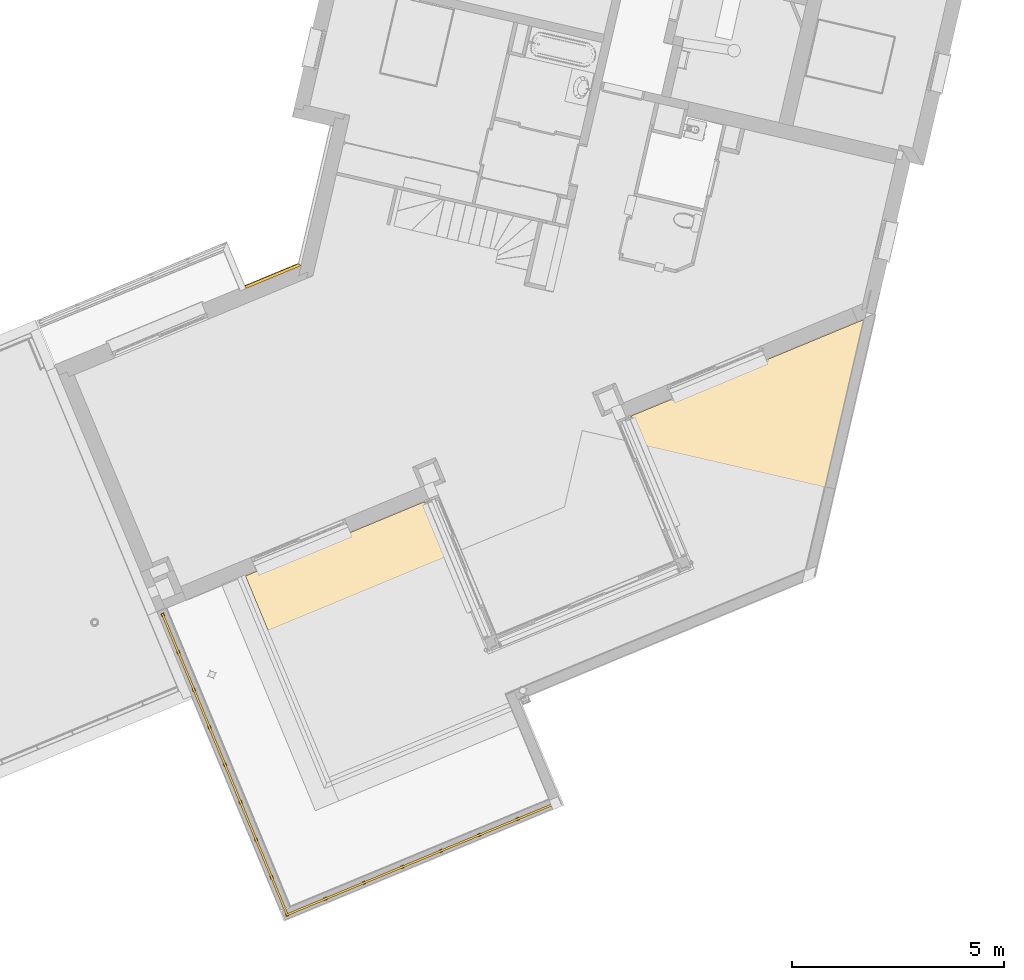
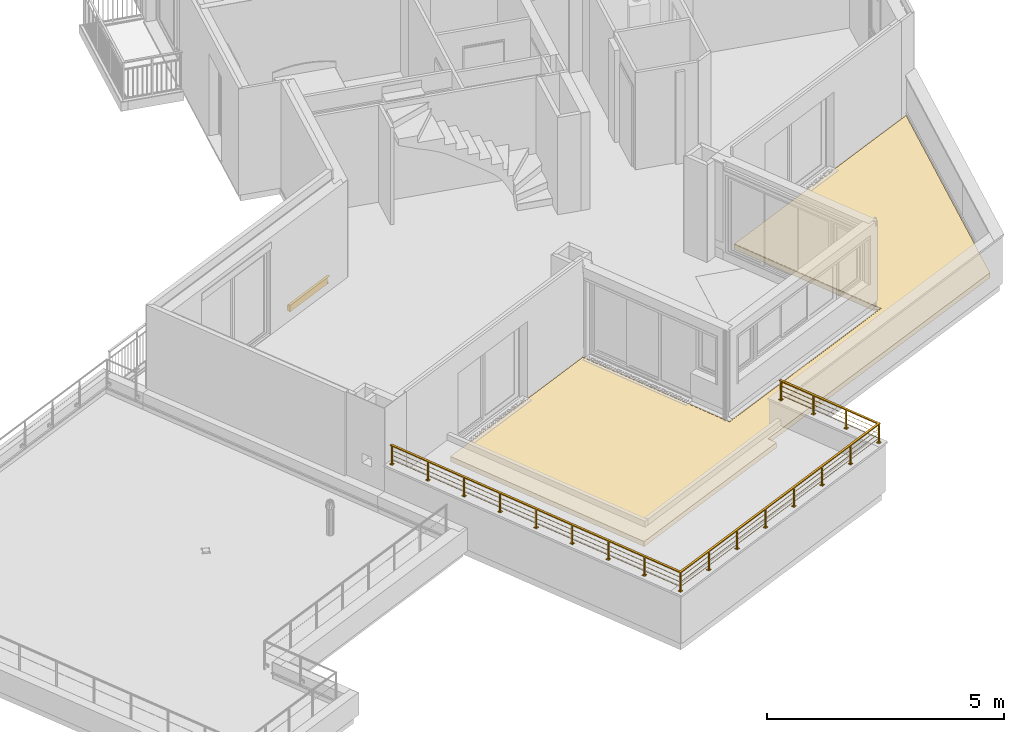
# One storey, part 39 of 62: 2 coverings, 1 railing.
"""IFC2X3 building model written with IfcOpenShell, lengths in metres."""

import ifcopenshell
import ifcopenshell.guid

model = None  # the IFC model being written
_history = None  # IfcOwnerHistory: only IFC2X3 demands one
_inside = {}  # id of a spatial element -> (the spatial element, [elements in it])
_under = {}  # id of a project, library or spatial element -> (it, [spatial elements below it])
_declared = {}  # id of a project -> (the project, [libraries it declares])
_typed = {}  # id of a type object -> (the type object, [elements of that type])
_made_of = {}  # id of a material, layer set ... -> (it, [elements and type objects made of it])


def new_model(schema):
    """Start an empty IFC model of exactly this schema.

    Asked for "IFC4X3", IfcOpenShell would pick the latest addendum, in which some entities
    have other attributes; the version numbers below select the first issue.
    IFC2X3 requires an IfcOwnerHistory on every rooted entity: one is made here for all.
    """
    global model, _history
    if schema == "IFC4X3":
        model = ifcopenshell.file(schema_version=(4, 3, 0, 0))
    else:
        model = ifcopenshell.file(schema=schema)
    _inside.clear()
    _under.clear()
    _declared.clear()
    _typed.clear()
    _made_of.clear()
    _history = None
    if model.schema == "IFC2X3":
        org = make("IfcOrganization", Name="unknown")
        user = make(
            "IfcPersonAndOrganization",
            ThePerson=make("IfcPerson", FamilyName="unknown"),
            TheOrganization=org,
        )
        app = make(
            "IfcApplication",
            ApplicationDeveloper=org,
            Version="unknown",
            ApplicationFullName="unknown",
            ApplicationIdentifier="unknown",
        )
        _history = make(
            "IfcOwnerHistory",
            OwningUser=user,
            OwningApplication=app,
            ChangeAction="ADDED",
            CreationDate=0,
        )
    return model


def make(cls, **values):
    """One entity of the class cls with the attributes given. An attribute that is None is left unset."""
    return model.create_entity(
        cls, **{name: value for name, value in values.items() if value is not None}
    )


def entity(cls, *values):
    """Any entity or typed value of the class cls, its attributes in the order of the schema. None: left unset."""
    e = model.create_entity(cls)
    for i, value in enumerate(values):
        if value is not None:
            e[i] = value
    return e


def rooted(cls, **values):
    """An entity with a GlobalId (a new one), such as an element, a storey or a relation."""
    return make(cls, GlobalId=ifcopenshell.guid.new(), OwnerHistory=_history, **values)


def si_unit(unit_type, name, prefix=None):
    """IfcSIUnit, for example si_unit("LENGTHUNIT", "METRE", prefix="MILLI")."""
    return make("IfcSIUnit", UnitType=unit_type, Prefix=prefix, Name=name)


def converted_unit(unit_type, name, factor, base, dimensions=None, offset=None):
    """IfcConversionBasedUnit, such as the inch: factor (a typed value) times the base unit."""
    return make(
        "IfcConversionBasedUnit"
        if offset is None
        else "IfcConversionBasedUnitWithOffset",
        ConversionOffset=offset,
        Dimensions=None
        if dimensions is None
        else entity("IfcDimensionalExponents", *dimensions),
        UnitType=unit_type,
        Name=name,
        ConversionFactor=make(
            "IfcMeasureWithUnit", ValueComponent=factor, UnitComponent=base
        ),
    )


def derived_unit(unit_type, elements):
    """IfcDerivedUnit: a product of units, each with its exponent."""
    return make(
        "IfcDerivedUnit",
        Elements=[
            make("IfcDerivedUnitElement", Unit=unit, Exponent=power)
            for unit, power in elements
        ],
        UnitType=unit_type,
    )


def money_unit(currency):
    """IfcMonetaryUnit."""
    return make("IfcMonetaryUnit", Currency=currency)


def assignment(units):
    """IfcUnitAssignment: the units of a project."""
    return None if units is None else make("IfcUnitAssignment", Units=units)


def point(xyz):
    """IfcCartesianPoint."""
    return None if xyz is None else make("IfcCartesianPoint", Coordinates=xyz)


def direction(xyz):
    """IfcDirection."""
    return None if xyz is None else make("IfcDirection", DirectionRatios=xyz)


def frame(location, z_axis=None, x_axis=None):
    """IfcAxis2Placement3D, a coordinate frame: its origin and axes. An axis left out is left unset."""
    return make(
        "IfcAxis2Placement3D",
        Location=point(location),
        Axis=direction(z_axis),
        RefDirection=direction(x_axis),
    )


def origin_with_axes():
    """The frame at (0, 0, 0) with the z axis (0, 0, 1) and the x axis (1, 0, 0) written out."""
    return frame((0.0, 0.0, 0.0), z_axis=(0.0, 0.0, 1.0), x_axis=(1.0, 0.0, 0.0))


def place(relative_to, where):
    """IfcLocalPlacement: puts the frame where relative to a parent placement (None: the world)."""
    return make(
        "IfcLocalPlacement", PlacementRelTo=relative_to, RelativePlacement=where
    )


def context(
    kind, dimensions, precision=None, world=None, true_north=None, identifier=None
):
    """IfcGeometricRepresentationContext, for example the 3D "Model" context."""
    return make(
        "IfcGeometricRepresentationContext",
        ContextIdentifier=identifier,
        ContextType=kind,
        CoordinateSpaceDimension=dimensions,
        Precision=precision,
        WorldCoordinateSystem=world,
        TrueNorth=true_north,
    )


def subcontext(parent, identifier, kind, view, scale=None):
    """IfcGeometricRepresentationSubContext, for example "Body" below "Model"."""
    return make(
        "IfcGeometricRepresentationSubContext",
        ContextIdentifier=identifier,
        ContextType=kind,
        ParentContext=parent,
        TargetScale=scale,
        TargetView=view,
    )


def project(units=None, contexts=None):
    """IfcProject with its units and contexts."""
    return rooted(
        "IfcProject",
        Name="project",
        RepresentationContexts=contexts,
        UnitsInContext=assignment(units),
    )


def spatial(cls, under=None, at=None, **own):
    """A site, building, storey or space (cls), placed at a placement, below another one or the project."""
    s = rooted(cls, ObjectPlacement=at, **own)
    if under is not None:
        _under.setdefault(under.id(), (under, []))[1].append(s)
    return s


def faces_of(points, faces, orient=None, outer=None):
    """IfcFace entities. A face is a list of loops; a loop is a list of indices into points, from 0.

    orient and outer hold one flag for each loop. By default every Orientation is true, the
    first loop of a face is its IfcFaceOuterBound and the others are IfcFaceBound.
    """
    made = []
    for i, loops in enumerate(faces):
        bounds = []
        for j, loop in enumerate(loops):
            is_outer = j == 0 if outer is None else outer[i][j]
            bounds.append(
                make(
                    "IfcFaceOuterBound" if is_outer else "IfcFaceBound",
                    Bound=make("IfcPolyLoop", Polygon=[points[k] for k in loop]),
                    Orientation=True if orient is None else orient[i][j],
                )
            )
        made.append(make("IfcFace", Bounds=bounds))
    return made


def faceted_brep(points, faces, orient=None, outer=None, voids=None):
    """IfcFacetedBrep: a solid bounded by flat faces; with voids (closed shells), ...WithVoids."""
    shared = [point(p) for p in points]
    hull = make("IfcClosedShell", CfsFaces=faces_of(shared, faces, orient, outer))
    if voids is None:
        return make("IfcFacetedBrep", Outer=hull)
    return make(
        "IfcFacetedBrepWithVoids",
        Outer=hull,
        Voids=[
            make(cls, CfsFaces=faces_of(shared, fs, o, b)) for cls, fs, o, b in voids
        ],
    )


def shape(context_of_items, identifier, shape_type, items):
    """IfcShapeRepresentation: the items that make up one representation, for example the "Body"."""
    return make(
        "IfcShapeRepresentation",
        ContextOfItems=context_of_items,
        RepresentationIdentifier=identifier,
        RepresentationType=shape_type,
        Items=items,
    )


def material(Name=None, Category=None):
    """IfcMaterial."""
    return make("IfcMaterial", Name=Name, Category=Category)


def material_list(materials):
    """IfcMaterialList."""
    return make("IfcMaterialList", Materials=materials)


def made_of(thing, what):
    """Note that an element or type object is made of a material, layer set ...; save() writes the relation."""
    if what is not None:
        _made_of.setdefault(what.id(), (what, []))[1].append(thing)
    return thing


def type_object(cls, material=None, **own):
    """A type object (cls), such as IfcWallType, which elements share."""
    return made_of(rooted(cls, **own), material)


def element(
    cls,
    number,
    at=None,
    inside=None,
    cuts=None,
    type_object=None,
    material=None,
    context=None,
    identifier="Body",
    shape_type=None,
    held_by="IfcProductDefinitionShape",
    body=None,
    shapes=None,
    **own,
):
    """One element of the class cls, such as IfcWall. Its Tag is "e" and its number.

    at: its placement. inside: the storey or other place that contains it. cuts: it is an
    opening in that element (IfcRelVoidsElement). A single representation is given by context,
    identifier, shape_type and body (its items); several are given by shapes. held_by: the class
    of the entity that holds the representations. save() writes the other relations.
    """
    e = rooted(cls, Tag="e%d" % number, ObjectPlacement=at, **own)
    if body is not None:
        shapes = [shape(context, identifier, shape_type, body)]
    if shapes is not None:
        e.Representation = make(held_by, Representations=shapes)
    if inside is not None:
        _inside.setdefault(inside.id(), (inside, []))[1].append(e)
    if cuts is not None:
        rooted(
            "IfcRelVoidsElement", RelatingBuildingElement=cuts, RelatedOpeningElement=e
        )
    if type_object is not None:
        _typed.setdefault(type_object.id(), (type_object, []))[1].append(e)
    return made_of(e, material)


def aggregate(whole, parts):
    """IfcRelAggregates: a whole, such as a stair, and the parts it consists of."""
    return rooted("IfcRelAggregates", RelatingObject=whole, RelatedObjects=parts)


def save(model, path):
    """Write the relations noted so far, then the file.

    IfcRelAggregates (storeys below a building ...), IfcRelContainedInSpatialStructure (elements
    in a storey), IfcRelDefinesByType, IfcRelAssociatesMaterial and IfcRelDeclares: one each for
    every whole, place, type object, material and project.
    """
    for whole, parts in _under.values():
        aggregate(whole, parts)
    for where, things in _inside.values():
        rooted(
            "IfcRelContainedInSpatialStructure",
            RelatedElements=things,
            RelatingStructure=where,
        )
    for kind, things in _typed.values():
        rooted("IfcRelDefinesByType", RelatedObjects=things, RelatingType=kind)
    for what, things in _made_of.values():
        rooted("IfcRelAssociatesMaterial", RelatedObjects=things, RelatingMaterial=what)
    for by, libraries in _declared.values():
        rooted("IfcRelDeclares", RelatingContext=by, RelatedDefinitions=libraries)
    model.write(path)


model = new_model("IFC2X3")

# Units and contexts
model_context = context("Model", 3, precision=1e-05, world=origin_with_axes(), true_north=direction((0.0, 1.0)))
body_context = subcontext(model_context, "Body", "Model", "MODEL_VIEW")
ifc_project = project(units=[si_unit("LENGTHUNIT", "METRE"), si_unit("AREAUNIT", "SQUARE_METRE"), si_unit("VOLUMEUNIT", "CUBIC_METRE"), converted_unit("PLANEANGLEUNIT", "DEGREE", entity("IfcPlaneAngleMeasure", 0.0174532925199), si_unit("PLANEANGLEUNIT", "RADIAN"), dimensions=[0, 0, 0, 0, 0, 0, 0]), si_unit("SOLIDANGLEUNIT", "STERADIAN"), money_unit("EUR"), converted_unit("TIMEUNIT", "Year", entity("IfcTimeMeasure", 31556926.0), si_unit("TIMEUNIT", "SECOND"), dimensions=[0, 0, 1, 0, 0, 0, 0]), si_unit("MASSUNIT", "GRAM", prefix="KILO"), si_unit("THERMODYNAMICTEMPERATUREUNIT", "DEGREE_CELSIUS"), si_unit("LUMINOUSINTENSITYUNIT", "LUMEN"), si_unit("ENERGYUNIT", "JOULE", prefix="MEGA"), derived_unit("THERMALCONDUCTANCEUNIT", [(si_unit("POWERUNIT", "WATT"), 1), (si_unit("LENGTHUNIT", "METRE"), -1), (si_unit("THERMODYNAMICTEMPERATUREUNIT", "KELVIN"), -1)]), derived_unit("SPECIFICHEATCAPACITYUNIT", [(si_unit("ENERGYUNIT", "JOULE"), 1), (si_unit("MASSUNIT", "GRAM", prefix="KILO"), -1), (si_unit("THERMODYNAMICTEMPERATUREUNIT", "KELVIN"), -1)]), derived_unit("MASSDENSITYUNIT", [(si_unit("MASSUNIT", "GRAM", prefix="KILO"), 1), (si_unit("VOLUMEUNIT", "CUBIC_METRE"), -1)])], contexts=[model_context])

# Site, building, storey
site_placement = place(None, origin_with_axes())
site = spatial("IfcSite", under=ifc_project, at=site_placement, Name="Site", CompositionType="ELEMENT")
building_placement = place(site_placement, origin_with_axes())
building = spatial("IfcBuilding", under=site, at=building_placement, Name="Bâtiment", CompositionType="ELEMENT")
storey_placement = place(building_placement, frame((0.0, 0.0, 8.16), z_axis=(0.0, 0.0, 1.0), x_axis=(1.0, 0.0, 0.0)))
storey = spatial("IfcBuildingStorey", under=building, at=storey_placement, Name="R+3", CompositionType="ELEMENT", Elevation=8.16)

# Coverings
ifc_material_1 = material(Name="Finition sol - Carrelage")
covering_type_1 = type_object("IfcCoveringType", Name="Bandeau de façade composite 80 x 165", PredefinedType="USERDEFINED")
covering_1_placement = place(storey_placement, frame((-19.8338770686, -12.7109182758, -0.165), z_axis=(0.0, 0.0, 1.0), x_axis=(-0.92370167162, -0.383112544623, 0.0)))
element("IfcCovering", 1, at=covering_1_placement, inside=storey, type_object=covering_type_1, material=ifc_material_1, Name="Bandeaux de façade préfa composite", ObjectType="MOLDING", PredefinedType="USERDEFINED", context=body_context, shape_type="Brep", body=[
    faceted_brep([(0.0571102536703, 0.08, 0.00621912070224), (0.0184603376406, 0.0258592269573, 0.00621912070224), (0.0126732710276, 0.0177527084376, 0.00621912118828), (0.0, 0.0, 0.00621912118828), (0.0, 0.0, 0.144794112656), (0.0571102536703, 0.08, 0.144794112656), (0.0352980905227, 0.08, 0.00621912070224), (-0.00335182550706, 0.0258592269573, 0.00621912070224), (1.36038424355, 0.0258592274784, 0.00621912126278), (1.36038424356, 0.0177527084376, 0.00621912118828), (0.0089612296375, 0.0125528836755, 0.0), (0.0, 0.0, 0.0), (1.36038424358, 0.0, 0.144794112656), (1.36038424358, 0.0, 0.0), (1.36038424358, 0.0, 0.00621912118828), (0.0395581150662, 0.08, 0.16), (-0.00735402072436, 0.0142855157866, 0.16), (1.3603842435, 0.08, 0.00621912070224), (1.3603842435, 0.08, 0.0), (0.0189490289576, 0.08, 0.0), (0.0253378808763, 0.08, 0.00621912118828), (-0.0411830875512, 0.0800000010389, 0.165), (1.3603842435, 0.08, 0.165), (-0.013312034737, 0.0258592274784, 0.00621912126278), (-0.0159888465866, 0.0310590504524, 0.0), (1.36038424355, 0.0310590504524, 0.0), (1.36038424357, 0.0142855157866, 0.16), (1.36038424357, 0.0125528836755, 0.0)], [[[0, 1, 2, 3, 4, 5]], [[0, 6, 7, 1]], [[8, 9, 2, 1]], [[2, 10, 11, 3]], [[12, 4, 3, 11, 13, 14]], [[15, 5, 4, 16]], [[17, 18, 19, 20, 6, 0, 5, 15, 21, 22]], [[7, 6, 20, 23]], [[1, 7, 23, 24, 25, 8]], [[26, 12, 14, 9, 8, 17, 22]], [[9, 27, 10, 2]], [[27, 13, 11, 10]], [[12, 26, 16, 4]], [[14, 13, 27, 9]], [[21, 15, 16]], [[8, 25, 18, 17]], [[18, 25, 24, 19]], [[23, 20, 19, 24]], [[26, 22, 21, 16]]]),
])
ifc_material_2 = material(Name="Finition sol - Dalles terrasse")
ifc_material_3 = material(Name="Divers - Vide")
ifc_material_list_1 = material_list([ifc_material_2, ifc_material_3])
covering_type_2 = type_object("IfcCoveringType", Name="6 -Dalles sur plots multi protections 130", PredefinedType="INSULATION")
covering_2_placement = place(storey_placement, frame((-21.0779884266, -20.1027118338, 0.24), z_axis=(0.0, 0.0, 1.0), x_axis=(1.0, 0.0, 0.0)))
element("IfcCovering", 2, at=covering_2_placement, inside=storey, type_object=covering_type_2, material=ifc_material_list_1, Name="Dalle_004", PredefinedType="INSULATION", context=body_context, shape_type="Brep", body=[
    faceted_brep([(5.74169231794, -1.84581853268, -0.02), (5.73707380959, -1.8477340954, -0.02), (5.73707380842, -1.84773409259, -5.19607823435e-09), (5.74169231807, -1.84581852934, -5.19607823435e-09), (10.5966683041, 0.167821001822, -5.19608001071e-09), (10.6012868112, 0.16973656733, -5.19608001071e-09), (10.6012868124, 0.169736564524, -0.02), (10.596668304, 0.167821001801, -0.02), (5.73977675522, -1.84120002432, -0.0199999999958), (4.24575275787, 1.76095940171, -0.0199999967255), (4.24113424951, 1.75904383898, -0.0199999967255), (9.10534725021, 3.7765145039, -0.0199999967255), (9.10072874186, 3.77459894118, -0.0199999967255), (10.5947527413, 0.172439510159, -0.02), (4.24113424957, 1.75904383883, -1.25848487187e-09), (4.24113424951, 1.75904383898, -0.0170687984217), (0.0, 0.0, 0.0), (1.97559646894, -4.76325243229, 0.0), (6.2229124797, -3.00164465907, 0.0), (6.13467302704, -2.79196763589, 0.0), (13.2443196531, 0.15681430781, 0.0), (14.6062515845, 6.05805791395, 0.0), (9.10534724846, 3.77651450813, -1.25848487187e-09), (9.10534725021, 3.7765145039, -0.0170687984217), (5.73977675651, -1.84120002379, -5.19103515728e-09), (4.24575275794, 1.76095940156, -1.25848487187e-09), (4.24575275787, 1.76095940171, -0.0170687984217), (4.25776087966, 1.76593986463, 0.0), (4.25776087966, 1.76593986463, -0.05), (0.0, 0.0, -0.05), (14.6062515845, 6.05805791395, -0.05), (9.08872061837, 3.76961848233, -0.05), (9.08872061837, 3.76961848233, 0.0), (9.10072874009, 3.7745989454, -1.25848487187e-09), (9.10072874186, 3.77459894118, -0.0170687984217), (10.5947527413, 0.172439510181, -5.19103871e-09), (1.97559646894, -4.76325243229, -0.05), (6.2229124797, -3.00164465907, -0.05), (6.13467302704, -2.79196763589, -0.05), (13.2443196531, 0.15681430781, -0.05), (10.5777641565, 0.17946716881, 0.0), (5.74680441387, -1.82421143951, 0.0), (5.74680441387, -1.82421143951, -0.05), (10.5777641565, 0.17946716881, -0.05)], [[[0, 1, 2, 3, 4, 5, 6, 7]], [[8, 9, 10, 1, 0, 7, 6, 11, 12, 13]], [[14, 2, 1, 10, 15]], [[2, 14, 16, 17, 18, 19, 20, 21, 22, 5, 4, 3]], [[5, 22, 23, 11, 6]], [[8, 24, 25, 26, 9]], [[26, 25, 27, 28, 29, 16, 14, 15, 10, 9]], [[23, 22, 21, 30, 31, 32, 33, 34, 12, 11]], [[35, 13, 12, 34, 33]], [[24, 8, 13, 35]], [[29, 36, 17, 16]], [[36, 37, 18, 17]], [[37, 38, 19, 18]], [[38, 39, 20, 19]], [[39, 30, 21, 20]], [[25, 24, 35, 33, 32, 40, 41, 27]], [[42, 28, 27, 41]], [[36, 29, 28, 42, 43, 31, 30, 39, 38, 37]], [[31, 43, 40, 32]], [[43, 42, 41, 40]]]),
    faceted_brep([(0.0, 0.0, -0.05), (0.0, 0.0, -0.13), (1.97559646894, -4.76325243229, -0.13), (1.97559646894, -4.76325243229, -0.05), (4.25776087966, 1.76593986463, -0.05), (4.25776087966, 1.76593986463, -0.13), (5.74680441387, -1.82421143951, -0.13), (10.5777641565, 0.17946716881, -0.13), (9.08872061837, 3.76961848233, -0.13), (14.6062515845, 6.05805791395, -0.13), (13.2443196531, 0.15681430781, -0.13), (6.13467302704, -2.79196763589, -0.13), (6.2229124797, -3.00164465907, -0.13), (6.2229124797, -3.00164465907, -0.05), (6.13467302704, -2.79196763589, -0.05), (13.2443196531, 0.15681430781, -0.05), (14.6062515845, 6.05805791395, -0.05), (9.08872061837, 3.76961848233, -0.05), (10.5777641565, 0.17946716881, -0.05), (5.74680441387, -1.82421143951, -0.05)], [[[0, 1, 2, 3]], [[4, 5, 1, 0]], [[2, 1, 5, 6, 7, 8, 9, 10, 11, 12]], [[3, 2, 12, 13]], [[4, 0, 3, 13, 14, 15, 16, 17, 18, 19]], [[19, 6, 5, 4]], [[18, 7, 6, 19]], [[17, 8, 7, 18]], [[16, 9, 8, 17]], [[15, 10, 9, 16]], [[14, 11, 10, 15]], [[13, 12, 11, 14]]]),
])

# Railing
ifc_material_4 = material(Name="Métal - Acier")
ifc_material_list_2 = material_list([ifc_material_4, ifc_material_4, ifc_material_4, ifc_material_4, ifc_material_4, ifc_material_4, ifc_material_4, ifc_material_4, ifc_material_4, ifc_material_4, ifc_material_4, ifc_material_4, ifc_material_4, ifc_material_4, ifc_material_4, ifc_material_4, ifc_material_4, ifc_material_4, ifc_material_4, ifc_material_4, ifc_material_4, ifc_material_4, ifc_material_4, ifc_material_4, ifc_material_4, ifc_material_4, ifc_material_4, ifc_material_4, ifc_material_4, ifc_material_4, ifc_material_4, ifc_material_4, ifc_material_4])
railing_type = type_object("IfcRailingType", Name="Type de garde-corps", PredefinedType="NOTDEFINED")
railing_placement = place(storey_placement, frame((-22.1556995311, -23.132359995, 1.28), z_axis=(0.0, 0.0, 1.0), x_axis=(1.0, 0.0, 0.0)))
element("IfcRailing", 3, at=railing_placement, inside=storey, type_object=railing_type, material=ifc_material_list_2, Name="Garde-corps acier laqué H=50cm", PredefinedType="NOTDEFINED", context=body_context, shape_type="Brep", body=[
    faceted_brep([(-0.895953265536, 2.12103085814, 0.01), (-0.8844598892, 2.09331980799, 0.01), (-0.8844598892, 2.09331980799, 0.48), (-0.895953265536, 2.12103085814, 0.48), (-0.856748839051, 2.10481318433, 0.01), (-0.868242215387, 2.13252423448, 0.01), (-0.856748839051, 2.10481318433, 0.48), (-0.868242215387, 2.13252423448, 0.48)], [[[0, 1, 2, 3]], [[4, 1, 0, 5]], [[1, 4, 6, 2]], [[3, 2, 6, 7]], [[5, 0, 3, 7]], [[4, 5, 7, 6]]]),
    faceted_brep([(-0.854727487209, 2.16519458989, 0.0), (-0.854727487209, 2.16519458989, 0.01), (-0.824078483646, 2.09129845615, 0.01), (-0.824078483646, 2.09129845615, 0.0), (-0.928623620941, 2.13454558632, 0.0), (-0.928623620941, 2.13454558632, 0.01), (-0.897974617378, 2.06064945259, 0.01), (-0.897974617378, 2.06064945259, 0.0)], [[[0, 1, 2, 3]], [[4, 5, 1, 0]], [[1, 5, 6, 2]], [[3, 2, 6, 7]], [[0, 3, 7, 4]], [[7, 6, 5, 4]]]),
    faceted_brep([(-0.853258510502, 2.12249983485, 0.5), (-0.853258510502, 2.12249983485, 0.475), (-0.864751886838, 2.150210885, 0.475), (-0.864751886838, 2.150210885, 0.5), (-0.899443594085, 2.10334420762, 0.5), (-0.899443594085, 2.10334420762, 0.475), (-0.910936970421, 2.13105525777, 0.475), (-0.910936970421, 2.13105525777, 0.5)], [[[0, 1, 2, 3]], [[0, 4, 5, 1]], [[1, 5, 6, 2]], [[3, 2, 6, 7]], [[4, 0, 3, 7]], [[5, 4, 7, 6]]]),
    faceted_brep([(2.04408388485, -4.96753167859, 0.01), (2.05557726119, -4.99524272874, 0.01), (2.05557726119, -4.99524272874, 0.48), (2.04408388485, -4.96753167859, 0.48), (2.08328831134, -4.9837493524, 0.01), (2.071794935, -4.95603830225, 0.01), (2.08328831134, -4.9837493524, 0.48), (2.071794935, -4.95603830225, 0.48)], [[[0, 1, 2, 3]], [[4, 1, 0, 5]], [[1, 4, 6, 2]], [[3, 2, 6, 7]], [[5, 0, 3, 7]], [[4, 5, 7, 6]]]),
    faceted_brep([(2.08530966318, -4.92336794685, 0.0), (2.08530966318, -4.92336794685, 0.01), (2.11595866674, -4.99726408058, 0.01), (2.11595866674, -4.99726408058, 0.0), (2.01141352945, -4.95401695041, 0.0), (2.01141352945, -4.95401695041, 0.01), (2.04206253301, -5.02791308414, 0.01), (2.04206253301, -5.02791308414, 0.0)], [[[0, 1, 2, 3]], [[4, 5, 1, 0]], [[1, 5, 6, 2]], [[3, 2, 6, 7]], [[0, 3, 7, 4]], [[7, 6, 5, 4]]]),
    faceted_brep([(8.41393442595, -2.35806400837, 0.01), (8.4416454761, -2.34657063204, 0.01), (8.4416454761, -2.34657063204, 0.48), (8.41393442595, -2.35806400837, 0.48), (8.43015209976, -2.31885958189, 0.01), (8.40244104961, -2.33035295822, 0.01), (8.43015209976, -2.31885958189, 0.48), (8.40244104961, -2.33035295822, 0.48)], [[[0, 1, 2, 3]], [[4, 1, 0, 5]], [[1, 4, 6, 2]], [[3, 2, 6, 7]], [[5, 0, 3, 7]], [[4, 5, 7, 6]]]),
    faceted_brep([(8.36977069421, -2.31683823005, 0.0), (8.36977069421, -2.31683823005, 0.01), (8.44366682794, -2.28618922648, 0.01), (8.44366682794, -2.28618922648, 0.0), (8.40041969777, -2.39073436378, 0.0), (8.40041969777, -2.39073436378, 0.01), (8.4743158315, -2.36008536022, 0.01), (8.4743158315, -2.36008536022, 0.0)], [[[0, 1, 2, 3]], [[4, 5, 1, 0]], [[1, 5, 6, 2]], [[3, 2, 6, 7]], [[0, 3, 7, 4]], [[7, 6, 5, 4]]]),
    faceted_brep([(7.4453467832, 0.0555505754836, 0.01), (7.43385340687, 0.0832616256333, 0.01), (7.43385340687, 0.0832616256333, 0.48), (7.4453467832, 0.0555505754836, 0.48), (7.40614235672, 0.0717682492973, 0.01), (7.41763573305, 0.0440571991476, 0.01), (7.40614235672, 0.0717682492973, 0.48), (7.41763573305, 0.0440571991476, 0.48)], [[[0, 1, 2, 3]], [[4, 1, 0, 5]], [[1, 4, 6, 2]], [[3, 2, 6, 7]], [[5, 0, 3, 7]], [[4, 5, 7, 6]]]),
    faceted_brep([(7.40412100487, 0.0113868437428, 0.0), (7.40412100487, 0.0113868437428, 0.01), (7.37347200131, 0.0852829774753, 0.01), (7.37347200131, 0.0852829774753, 0.0), (7.47801713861, 0.0420358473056, 0.0), (7.47801713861, 0.0420358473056, 0.01), (7.44736813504, 0.115931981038, 0.01), (7.44736813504, 0.115931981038, 0.0)], [[[0, 1, 2, 3]], [[4, 5, 1, 0]], [[1, 5, 6, 2]], [[3, 2, 6, 7]], [[0, 3, 7, 4]], [[7, 6, 5, 4]]]),
    faceted_brep([(7.44883711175, 0.0732372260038, 0.5), (7.44883711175, 0.0732372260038, 0.475), (7.43734373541, 0.100948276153, 0.475), (7.43734373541, 0.100948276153, 0.5), (7.40265202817, 0.0540815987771, 0.5), (7.40265202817, 0.0540815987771, 0.475), (7.39115865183, 0.0817926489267, 0.475), (7.39115865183, 0.0817926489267, 0.5)], [[[0, 1, 2, 3]], [[0, 4, 5, 1]], [[1, 5, 6, 2]], [[3, 2, 6, 7]], [[4, 0, 3, 7]], [[5, 4, 7, 6]]]),
    faceted_brep([(-0.899443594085, 2.10334420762, 0.5), (-0.899443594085, 2.10334420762, 0.475), (2.05017136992, -5.0083108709, 0.475), (2.05017136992, -5.0083108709, 0.5), (-0.853258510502, 2.12249983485, 0.5), (-0.853258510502, 2.12249983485, 0.475), (2.07720082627, -4.94297016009, 0.475), (2.07720082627, -4.94297016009, 0.5)], [[[0, 1, 2, 3]], [[0, 4, 5, 1]], [[1, 5, 6, 2]], [[3, 2, 6, 7]], [[4, 0, 3, 7]], [[5, 4, 7, 6]]]),
    faceted_brep([(-0.878660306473, 2.11196423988, 0.114127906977), (-0.878660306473, 2.11196423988, 0.109127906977), (2.06233462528, -4.97890755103, 0.109127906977), (2.06233462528, -4.97890755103, 0.114127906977), (-0.874041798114, 2.1138798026, 0.114127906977), (-0.874041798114, 2.1138798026, 0.109127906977), (2.06503757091, -4.97237347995, 0.109127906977), (2.06503757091, -4.97237347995, 0.114127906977)], [[[0, 1, 2, 3]], [[0, 4, 5, 1]], [[1, 5, 6, 2]], [[3, 2, 6, 7]], [[4, 0, 3, 7]], [[5, 4, 7, 6]]]),
    faceted_brep([(-0.878660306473, 2.11196423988, 0.234117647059), (-0.878660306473, 2.11196423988, 0.229117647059), (2.06233462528, -4.97890755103, 0.229117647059), (2.06233462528, -4.97890755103, 0.234117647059), (-0.874041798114, 2.1138798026, 0.234117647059), (-0.874041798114, 2.1138798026, 0.229117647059), (2.06503757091, -4.97237347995, 0.229117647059), (2.06503757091, -4.97237347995, 0.234117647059)], [[[0, 1, 2, 3]], [[0, 4, 5, 1]], [[1, 5, 6, 2]], [[3, 2, 6, 7]], [[4, 0, 3, 7]], [[5, 4, 7, 6]]]),
    faceted_brep([(-0.878660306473, 2.11196423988, 0.355441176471), (-0.878660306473, 2.11196423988, 0.350441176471), (2.06233462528, -4.97890755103, 0.350441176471), (2.06233462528, -4.97890755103, 0.355441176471), (-0.874041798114, 2.1138798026, 0.355441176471), (-0.874041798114, 2.1138798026, 0.350441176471), (2.06503757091, -4.97237347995, 0.350441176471), (2.06503757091, -4.97237347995, 0.355441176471)], [[[0, 1, 2, 3]], [[0, 4, 5, 1]], [[1, 5, 6, 2]], [[3, 2, 6, 7]], [[4, 0, 3, 7]], [[5, 4, 7, 6]]]),
    faceted_brep([(-0.528448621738, 1.23496054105, 0.01), (-0.516955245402, 1.2072494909, 0.01), (-0.516955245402, 1.2072494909, 0.48), (-0.528448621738, 1.23496054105, 0.48), (-0.489244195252, 1.21874286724, 0.01), (-0.500737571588, 1.24645391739, 0.01), (-0.489244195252, 1.21874286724, 0.48), (-0.500737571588, 1.24645391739, 0.48)], [[[0, 1, 2, 3]], [[4, 1, 0, 5]], [[1, 4, 6, 2]], [[3, 2, 6, 7]], [[5, 0, 3, 7]], [[4, 5, 7, 6]]]),
    faceted_brep([(-0.48722284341, 1.27912427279, 0.0), (-0.48722284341, 1.27912427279, 0.01), (-0.456573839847, 1.20522813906, 0.01), (-0.456573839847, 1.20522813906, 0.0), (-0.561118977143, 1.24847526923, 0.0), (-0.561118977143, 1.24847526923, 0.01), (-0.53046997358, 1.1745791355, 0.01), (-0.53046997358, 1.1745791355, 0.0)], [[[0, 1, 2, 3]], [[4, 5, 1, 0]], [[1, 5, 6, 2]], [[3, 2, 6, 7]], [[0, 3, 7, 4]], [[7, 6, 5, 4]]]),
    faceted_brep([(-0.160943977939, 0.348890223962, 0.01), (-0.149450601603, 0.321179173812, 0.01), (-0.149450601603, 0.321179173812, 0.48), (-0.160943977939, 0.348890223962, 0.48), (-0.121739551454, 0.332672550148, 0.01), (-0.13323292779, 0.360383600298, 0.01), (-0.121739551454, 0.332672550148, 0.48), (-0.13323292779, 0.360383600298, 0.48)], [[[0, 1, 2, 3]], [[4, 1, 0, 5]], [[1, 4, 6, 2]], [[3, 2, 6, 7]], [[5, 0, 3, 7]], [[4, 5, 7, 6]]]),
    faceted_brep([(-0.119718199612, 0.393053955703, 0.0), (-0.119718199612, 0.393053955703, 0.01), (-0.0890691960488, 0.31915782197, 0.01), (-0.0890691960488, 0.31915782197, 0.0), (-0.193614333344, 0.36240495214, 0.0), (-0.193614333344, 0.36240495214, 0.01), (-0.162965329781, 0.288508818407, 0.01), (-0.162965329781, 0.288508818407, 0.0)], [[[0, 1, 2, 3]], [[4, 5, 1, 0]], [[1, 5, 6, 2]], [[3, 2, 6, 7]], [[0, 3, 7, 4]], [[7, 6, 5, 4]]]),
    faceted_brep([(0.206560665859, -0.53718009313, 0.01), (0.218054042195, -0.564891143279, 0.01), (0.218054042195, -0.564891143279, 0.48), (0.206560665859, -0.53718009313, 0.48), (0.245765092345, -0.553397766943, 0.01), (0.234271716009, -0.525686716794, 0.01), (0.245765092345, -0.553397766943, 0.48), (0.234271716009, -0.525686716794, 0.48)], [[[0, 1, 2, 3]], [[4, 1, 0, 5]], [[1, 4, 6, 2]], [[3, 2, 6, 7]], [[5, 0, 3, 7]], [[4, 5, 7, 6]]]),
    faceted_brep([(0.247786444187, -0.493016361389, 0.0), (0.247786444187, -0.493016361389, 0.01), (0.27843544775, -0.566912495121, 0.01), (0.27843544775, -0.566912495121, 0.0), (0.173890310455, -0.523665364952, 0.0), (0.173890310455, -0.523665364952, 0.01), (0.204539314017, -0.597561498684, 0.01), (0.204539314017, -0.597561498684, 0.0)], [[[0, 1, 2, 3]], [[4, 5, 1, 0]], [[1, 5, 6, 2]], [[3, 2, 6, 7]], [[0, 3, 7, 4]], [[7, 6, 5, 4]]]),
    faceted_brep([(0.574065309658, -1.42325041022, 0.01), (0.585558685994, -1.45096146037, 0.01), (0.585558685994, -1.45096146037, 0.48), (0.574065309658, -1.42325041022, 0.48), (0.613269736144, -1.43946808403, 0.01), (0.601776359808, -1.41175703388, 0.01), (0.613269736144, -1.43946808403, 0.48), (0.601776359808, -1.41175703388, 0.48)], [[[0, 1, 2, 3]], [[4, 1, 0, 5]], [[1, 4, 6, 2]], [[3, 2, 6, 7]], [[5, 0, 3, 7]], [[4, 5, 7, 6]]]),
    faceted_brep([(0.615291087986, -1.37908667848, 0.0), (0.615291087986, -1.37908667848, 0.01), (0.645940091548, -1.45298281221, 0.01), (0.645940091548, -1.45298281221, 0.0), (0.541394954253, -1.40973568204, 0.0), (0.541394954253, -1.40973568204, 0.01), (0.572043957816, -1.48363181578, 0.01), (0.572043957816, -1.48363181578, 0.0)], [[[0, 1, 2, 3]], [[4, 5, 1, 0]], [[1, 5, 6, 2]], [[3, 2, 6, 7]], [[0, 3, 7, 4]], [[7, 6, 5, 4]]]),
    faceted_brep([(0.941569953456, -2.30932072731, 0.01), (0.953063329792, -2.33703177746, 0.01), (0.953063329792, -2.33703177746, 0.48), (0.941569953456, -2.30932072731, 0.48), (0.980774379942, -2.32553840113, 0.01), (0.969281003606, -2.29782735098, 0.01), (0.980774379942, -2.32553840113, 0.48), (0.969281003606, -2.29782735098, 0.48)], [[[0, 1, 2, 3]], [[4, 1, 0, 5]], [[1, 4, 6, 2]], [[3, 2, 6, 7]], [[5, 0, 3, 7]], [[4, 5, 7, 6]]]),
    faceted_brep([(0.982795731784, -2.26515699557, 0.0), (0.982795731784, -2.26515699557, 0.01), (1.01344473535, -2.3390531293, 0.01), (1.01344473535, -2.3390531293, 0.0), (0.908899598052, -2.29580599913, 0.0), (0.908899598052, -2.29580599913, 0.01), (0.939548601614, -2.36970213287, 0.01), (0.939548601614, -2.36970213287, 0.0)], [[[0, 1, 2, 3]], [[4, 5, 1, 0]], [[1, 5, 6, 2]], [[3, 2, 6, 7]], [[0, 3, 7, 4]], [[7, 6, 5, 4]]]),
    faceted_brep([(1.30907459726, -3.1953910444, 0.01), (1.32056797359, -3.22310209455, 0.01), (1.32056797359, -3.22310209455, 0.48), (1.30907459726, -3.1953910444, 0.48), (1.34827902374, -3.21160871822, 0.01), (1.3367856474, -3.18389766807, 0.01), (1.34827902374, -3.21160871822, 0.48), (1.3367856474, -3.18389766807, 0.48)], [[[0, 1, 2, 3]], [[4, 1, 0, 5]], [[1, 4, 6, 2]], [[3, 2, 6, 7]], [[5, 0, 3, 7]], [[4, 5, 7, 6]]]),
    faceted_brep([(1.35030037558, -3.15122731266, 0.0), (1.35030037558, -3.15122731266, 0.01), (1.38094937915, -3.2251234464, 0.01), (1.38094937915, -3.2251234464, 0.0), (1.27640424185, -3.18187631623, 0.0), (1.27640424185, -3.18187631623, 0.01), (1.30705324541, -3.25577244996, 0.01), (1.30705324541, -3.25577244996, 0.0)], [[[0, 1, 2, 3]], [[4, 5, 1, 0]], [[1, 5, 6, 2]], [[3, 2, 6, 7]], [[0, 3, 7, 4]], [[7, 6, 5, 4]]]),
    faceted_brep([(1.67657924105, -4.0814613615, 0.01), (1.68807261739, -4.10917241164, 0.01), (1.68807261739, -4.10917241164, 0.48), (1.67657924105, -4.0814613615, 0.48), (1.71578366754, -4.09767903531, 0.01), (1.7042902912, -4.06996798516, 0.01), (1.71578366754, -4.09767903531, 0.48), (1.7042902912, -4.06996798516, 0.48)], [[[0, 1, 2, 3]], [[4, 1, 0, 5]], [[1, 4, 6, 2]], [[3, 2, 6, 7]], [[5, 0, 3, 7]], [[4, 5, 7, 6]]]),
    faceted_brep([(1.71780501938, -4.03729762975, 0.0), (1.71780501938, -4.03729762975, 0.01), (1.74845402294, -4.11119376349, 0.01), (1.74845402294, -4.11119376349, 0.0), (1.64390888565, -4.06794663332, 0.0), (1.64390888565, -4.06794663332, 0.01), (1.67455788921, -4.14184276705, 0.01), (1.67455788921, -4.14184276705, 0.0)], [[[0, 1, 2, 3]], [[4, 5, 1, 0]], [[1, 5, 6, 2]], [[3, 2, 6, 7]], [[0, 3, 7, 4]], [[7, 6, 5, 4]]]),
    faceted_brep([(2.05017136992, -5.0083108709, 0.5), (2.05017136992, -5.0083108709, 0.475), (8.45471361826, -2.35197652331, 0.475), (8.45471361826, -2.35197652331, 0.5), (2.07720082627, -4.94297016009, 0.5), (2.07720082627, -4.94297016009, 0.475), (8.38937290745, -2.32494706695, 0.475), (8.38937290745, -2.32494706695, 0.5)], [[[0, 1, 2, 3]], [[0, 4, 5, 1]], [[1, 5, 6, 2]], [[3, 2, 6, 7]], [[4, 0, 3, 7]], [[5, 4, 7, 6]]]),
    faceted_brep([(2.06233462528, -4.97890755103, 0.114127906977), (2.06233462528, -4.97890755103, 0.109127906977), (8.42531029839, -2.33981326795, 0.109127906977), (8.42531029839, -2.33981326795, 0.114127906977), (2.06503757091, -4.97237347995, 0.114127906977), (2.06503757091, -4.97237347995, 0.109127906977), (8.41877622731, -2.33711032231, 0.109127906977), (8.41877622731, -2.33711032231, 0.114127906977)], [[[0, 1, 2, 3]], [[0, 4, 5, 1]], [[1, 5, 6, 2]], [[3, 2, 6, 7]], [[4, 0, 3, 7]], [[5, 4, 7, 6]]]),
    faceted_brep([(2.06233462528, -4.97890755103, 0.234117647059), (2.06233462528, -4.97890755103, 0.229117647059), (8.42531029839, -2.33981326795, 0.229117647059), (8.42531029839, -2.33981326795, 0.234117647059), (2.06503757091, -4.97237347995, 0.234117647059), (2.06503757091, -4.97237347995, 0.229117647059), (8.41877622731, -2.33711032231, 0.229117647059), (8.41877622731, -2.33711032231, 0.234117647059)], [[[0, 1, 2, 3]], [[0, 4, 5, 1]], [[1, 5, 6, 2]], [[3, 2, 6, 7]], [[4, 0, 3, 7]], [[5, 4, 7, 6]]]),
    faceted_brep([(2.06233462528, -4.97890755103, 0.355441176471), (2.06233462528, -4.97890755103, 0.350441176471), (8.42531029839, -2.33981326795, 0.350441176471), (8.42531029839, -2.33981326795, 0.355441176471), (2.06503757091, -4.97237347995, 0.355441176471), (2.06503757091, -4.97237347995, 0.350441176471), (8.41877622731, -2.33711032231, 0.350441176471), (8.41877622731, -2.33711032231, 0.355441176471)], [[[0, 1, 2, 3]], [[0, 4, 5, 1]], [[1, 5, 6, 2]], [[3, 2, 6, 7]], [[4, 0, 3, 7]], [[5, 4, 7, 6]]]),
    faceted_brep([(2.96391399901, -4.61850291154, 0.01), (2.99162504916, -4.60700953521, 0.01), (2.99162504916, -4.60700953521, 0.48), (2.96391399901, -4.61850291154, 0.48), (2.98013167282, -4.57929848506, 0.01), (2.95242062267, -4.59079186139, 0.01), (2.98013167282, -4.57929848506, 0.48), (2.95242062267, -4.59079186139, 0.48)], [[[0, 1, 2, 3]], [[4, 1, 0, 5]], [[1, 4, 6, 2]], [[3, 2, 6, 7]], [[5, 0, 3, 7]], [[4, 5, 7, 6]]]),
    faceted_brep([(2.91975026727, -4.57727713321, 0.0), (2.91975026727, -4.57727713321, 0.01), (2.993646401, -4.54662812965, 0.01), (2.993646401, -4.54662812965, 0.0), (2.95039927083, -4.65117326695, 0.0), (2.95039927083, -4.65117326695, 0.01), (3.02429540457, -4.62052426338, 0.01), (3.02429540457, -4.62052426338, 0.0)], [[[0, 1, 2, 3]], [[4, 5, 1, 0]], [[1, 5, 6, 2]], [[3, 2, 6, 7]], [[0, 3, 7, 4]], [[7, 6, 5, 4]]]),
    faceted_brep([(3.87225073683, -4.24176309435, 0.01), (3.89996178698, -4.23026971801, 0.01), (3.89996178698, -4.23026971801, 0.48), (3.87225073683, -4.24176309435, 0.48), (3.88846841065, -4.20255866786, 0.01), (3.8607573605, -4.2140520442, 0.01), (3.88846841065, -4.20255866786, 0.48), (3.8607573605, -4.2140520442, 0.48)], [[[0, 1, 2, 3]], [[4, 1, 0, 5]], [[1, 4, 6, 2]], [[3, 2, 6, 7]], [[5, 0, 3, 7]], [[4, 5, 7, 6]]]),
    faceted_brep([(3.82808700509, -4.20053731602, 0.0), (3.82808700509, -4.20053731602, 0.01), (3.90198313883, -4.16988831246, 0.01), (3.90198313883, -4.16988831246, 0.0), (3.85873600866, -4.27443344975, 0.0), (3.85873600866, -4.27443344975, 0.01), (3.93263214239, -4.24378444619, 0.01), (3.93263214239, -4.24378444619, 0.0)], [[[0, 1, 2, 3]], [[4, 5, 1, 0]], [[1, 5, 6, 2]], [[3, 2, 6, 7]], [[0, 3, 7, 4]], [[7, 6, 5, 4]]]),
    faceted_brep([(4.78058747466, -3.86502327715, 0.01), (4.80829852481, -3.85352990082, 0.01), (4.80829852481, -3.85352990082, 0.48), (4.78058747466, -3.86502327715, 0.48), (4.79680514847, -3.82581885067, 0.01), (4.76909409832, -3.837312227, 0.01), (4.79680514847, -3.82581885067, 0.48), (4.76909409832, -3.837312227, 0.48)], [[[0, 1, 2, 3]], [[4, 1, 0, 5]], [[1, 4, 6, 2]], [[3, 2, 6, 7]], [[5, 0, 3, 7]], [[4, 5, 7, 6]]]),
    faceted_brep([(4.73642374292, -3.82379749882, 0.0), (4.73642374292, -3.82379749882, 0.01), (4.81031987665, -3.79314849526, 0.01), (4.81031987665, -3.79314849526, 0.0), (4.76707274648, -3.89769363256, 0.0), (4.76707274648, -3.89769363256, 0.01), (4.84096888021, -3.86704462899, 0.01), (4.84096888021, -3.86704462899, 0.0)], [[[0, 1, 2, 3]], [[4, 5, 1, 0]], [[1, 5, 6, 2]], [[3, 2, 6, 7]], [[0, 3, 7, 4]], [[7, 6, 5, 4]]]),
    faceted_brep([(5.68892421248, -3.48828345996, 0.01), (5.71663526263, -3.47679008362, 0.01), (5.71663526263, -3.47679008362, 0.48), (5.68892421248, -3.48828345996, 0.48), (5.70514188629, -3.44907903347, 0.01), (5.67743083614, -3.46057240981, 0.01), (5.70514188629, -3.44907903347, 0.48), (5.67743083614, -3.46057240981, 0.48)], [[[0, 1, 2, 3]], [[4, 1, 0, 5]], [[1, 4, 6, 2]], [[3, 2, 6, 7]], [[5, 0, 3, 7]], [[4, 5, 7, 6]]]),
    faceted_brep([(5.64476048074, -3.44705768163, 0.0), (5.64476048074, -3.44705768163, 0.01), (5.71865661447, -3.41640867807, 0.01), (5.71865661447, -3.41640867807, 0.0), (5.6754094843, -3.52095381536, 0.0), (5.6754094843, -3.52095381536, 0.01), (5.74930561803, -3.4903048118, 0.01), (5.74930561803, -3.4903048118, 0.0)], [[[0, 1, 2, 3]], [[4, 5, 1, 0]], [[1, 5, 6, 2]], [[3, 2, 6, 7]], [[0, 3, 7, 4]], [[7, 6, 5, 4]]]),
    faceted_brep([(6.5972609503, -3.11154364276, 0.01), (6.62497200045, -3.10005026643, 0.01), (6.62497200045, -3.10005026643, 0.48), (6.5972609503, -3.11154364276, 0.48), (6.61347862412, -3.07233921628, 0.01), (6.58576757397, -3.08383259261, 0.01), (6.61347862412, -3.07233921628, 0.48), (6.58576757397, -3.08383259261, 0.48)], [[[0, 1, 2, 3]], [[4, 1, 0, 5]], [[1, 4, 6, 2]], [[3, 2, 6, 7]], [[5, 0, 3, 7]], [[4, 5, 7, 6]]]),
    faceted_brep([(6.55309721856, -3.07031786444, 0.0), (6.55309721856, -3.07031786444, 0.01), (6.62699335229, -3.03966886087, 0.01), (6.62699335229, -3.03966886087, 0.0), (6.58374622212, -3.14421399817, 0.0), (6.58374622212, -3.14421399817, 0.01), (6.65764235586, -3.1135649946, 0.01), (6.65764235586, -3.1135649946, 0.0)], [[[0, 1, 2, 3]], [[4, 5, 1, 0]], [[1, 5, 6, 2]], [[3, 2, 6, 7]], [[0, 3, 7, 4]], [[7, 6, 5, 4]]]),
    faceted_brep([(7.50559768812, -2.73480382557, 0.01), (7.53330873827, -2.72331044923, 0.01), (7.53330873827, -2.72331044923, 0.48), (7.50559768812, -2.73480382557, 0.48), (7.52181536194, -2.69559939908, 0.01), (7.49410431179, -2.70709277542, 0.01), (7.52181536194, -2.69559939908, 0.48), (7.49410431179, -2.70709277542, 0.48)], [[[0, 1, 2, 3]], [[4, 1, 0, 5]], [[1, 4, 6, 2]], [[3, 2, 6, 7]], [[5, 0, 3, 7]], [[4, 5, 7, 6]]]),
    faceted_brep([(7.46143395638, -2.69357804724, 0.0), (7.46143395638, -2.69357804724, 0.01), (7.53533009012, -2.66292904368, 0.01), (7.53533009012, -2.66292904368, 0.0), (7.49208295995, -2.76747418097, 0.0), (7.49208295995, -2.76747418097, 0.01), (7.56597909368, -2.73682517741, 0.01), (7.56597909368, -2.73682517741, 0.0)], [[[0, 1, 2, 3]], [[4, 5, 1, 0]], [[1, 5, 6, 2]], [[3, 2, 6, 7]], [[0, 3, 7, 4]], [[7, 6, 5, 4]]]),
    faceted_brep([(8.45471361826, -2.35197652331, 0.5), (8.45471361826, -2.35197652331, 0.475), (7.44883711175, 0.0732372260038, 0.475), (7.44883711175, 0.0732372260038, 0.5), (8.38937290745, -2.32494706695, 0.5), (8.38937290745, -2.32494706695, 0.475), (7.40265202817, 0.0540815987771, 0.475), (7.40265202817, 0.0540815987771, 0.5)], [[[0, 1, 2, 3]], [[0, 4, 5, 1]], [[1, 5, 6, 2]], [[3, 2, 6, 7]], [[4, 0, 3, 7]], [[5, 4, 7, 6]]]),
    faceted_brep([(8.42531029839, -2.33981326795, 0.114127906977), (8.42531029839, -2.33981326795, 0.109127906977), (7.42805382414, 0.0646171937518, 0.109127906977), (7.42805382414, 0.0646171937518, 0.114127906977), (8.41877622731, -2.33711032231, 0.114127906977), (8.41877622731, -2.33711032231, 0.109127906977), (7.42343531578, 0.0627016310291, 0.109127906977), (7.42343531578, 0.0627016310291, 0.114127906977)], [[[0, 1, 2, 3]], [[0, 4, 5, 1]], [[1, 5, 6, 2]], [[3, 2, 6, 7]], [[4, 0, 3, 7]], [[5, 4, 7, 6]]]),
    faceted_brep([(8.42531029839, -2.33981326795, 0.234117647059), (8.42531029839, -2.33981326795, 0.229117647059), (7.42805382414, 0.0646171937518, 0.229117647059), (7.42805382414, 0.0646171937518, 0.234117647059), (8.41877622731, -2.33711032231, 0.234117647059), (8.41877622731, -2.33711032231, 0.229117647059), (7.42343531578, 0.0627016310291, 0.229117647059), (7.42343531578, 0.0627016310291, 0.234117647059)], [[[0, 1, 2, 3]], [[0, 4, 5, 1]], [[1, 5, 6, 2]], [[3, 2, 6, 7]], [[4, 0, 3, 7]], [[5, 4, 7, 6]]]),
    faceted_brep([(8.42531029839, -2.33981326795, 0.355441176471), (8.42531029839, -2.33981326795, 0.350441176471), (7.42805382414, 0.0646171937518, 0.350441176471), (7.42805382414, 0.0646171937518, 0.355441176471), (8.41877622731, -2.33711032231, 0.355441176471), (8.41877622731, -2.33711032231, 0.350441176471), (7.42343531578, 0.0627016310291, 0.350441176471), (7.42343531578, 0.0627016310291, 0.355441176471)], [[[0, 1, 2, 3]], [[0, 4, 5, 1]], [[1, 5, 6, 2]], [[3, 2, 6, 7]], [[4, 0, 3, 7]], [[5, 4, 7, 6]]]),
    faceted_brep([(8.1095459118, -1.54586356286, 0.01), (8.09805253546, -1.51815251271, 0.01), (8.09805253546, -1.51815251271, 0.48), (8.1095459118, -1.54586356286, 0.48), (8.07034148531, -1.52964588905, 0.01), (8.08183486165, -1.5573569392, 0.01), (8.07034148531, -1.52964588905, 0.48), (8.08183486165, -1.5573569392, 0.48)], [[[0, 1, 2, 3]], [[4, 1, 0, 5]], [[1, 4, 6, 2]], [[3, 2, 6, 7]], [[5, 0, 3, 7]], [[4, 5, 7, 6]]]),
    faceted_brep([(8.06832013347, -1.5900272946, 0.0), (8.06832013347, -1.5900272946, 0.01), (8.03767112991, -1.51613116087, 0.01), (8.03767112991, -1.51613116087, 0.0), (8.1422162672, -1.55937829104, 0.0), (8.1422162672, -1.55937829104, 0.01), (8.11156726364, -1.48548215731, 0.01), (8.11156726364, -1.48548215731, 0.0)], [[[0, 1, 2, 3]], [[4, 5, 1, 0]], [[1, 5, 6, 2]], [[3, 2, 6, 7]], [[0, 3, 7, 4]], [[7, 6, 5, 4]]]),
    faceted_brep([(7.7774463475, -0.74515649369, 0.01), (7.76595297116, -0.71744544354, 0.01), (7.76595297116, -0.71744544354, 0.48), (7.7774463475, -0.74515649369, 0.48), (7.73824192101, -0.728938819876, 0.01), (7.74973529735, -0.756649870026, 0.01), (7.73824192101, -0.728938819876, 0.48), (7.74973529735, -0.756649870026, 0.48)], [[[0, 1, 2, 3]], [[4, 1, 0, 5]], [[1, 4, 6, 2]], [[3, 2, 6, 7]], [[5, 0, 3, 7]], [[4, 5, 7, 6]]]),
    faceted_brep([(7.73622056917, -0.789320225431, 0.0), (7.73622056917, -0.789320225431, 0.01), (7.70557156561, -0.715424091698, 0.01), (7.70557156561, -0.715424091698, 0.0), (7.8101167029, -0.758671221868, 0.0), (7.8101167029, -0.758671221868, 0.01), (7.77946769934, -0.684775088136, 0.01), (7.77946769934, -0.684775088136, 0.0)], [[[0, 1, 2, 3]], [[4, 5, 1, 0]], [[1, 5, 6, 2]], [[3, 2, 6, 7]], [[0, 3, 7, 4]], [[7, 6, 5, 4]]]),
])

save(model, "model.ifc")
